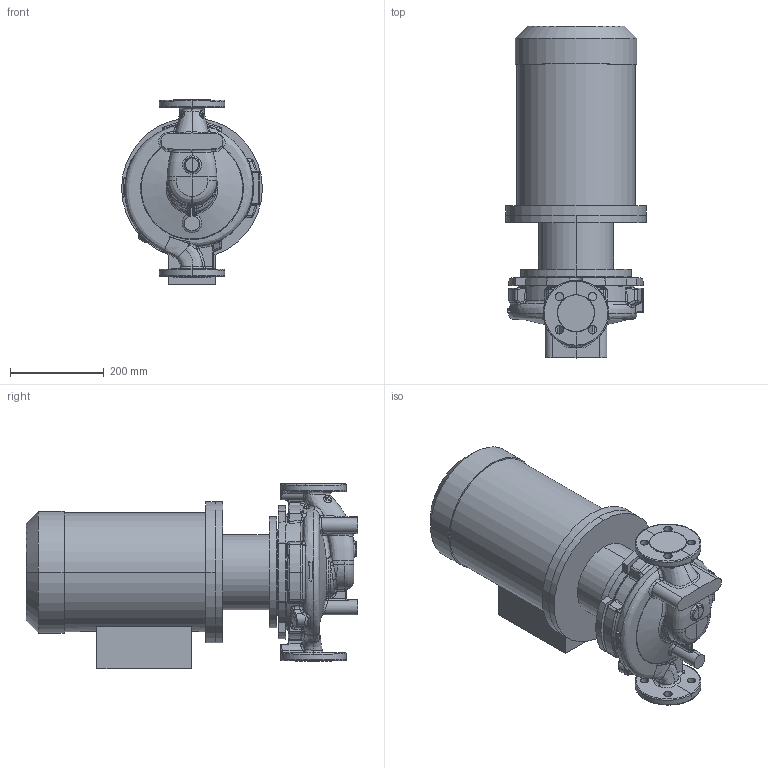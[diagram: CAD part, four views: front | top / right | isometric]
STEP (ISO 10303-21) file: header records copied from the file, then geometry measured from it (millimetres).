
FILE_DESCRIPTION (( 'STEP AP214' ), '1' );
FILE_NAME ('KRL 32-200-2-7,5.STEP', '2026-03-17T07:27:46', ( '' ), ( '' ), 'SwSTEP 2.0', 'SolidWorks 2016', '' );
FILE_SCHEMA (( 'AUTOMOTIVE_DESIGN' ));
Length unit declared in the file: millimetre
Products named in the file (1): KRL 32-200-2-7,5
Bounding box: 300 x 707.3 x 396 mm (x, y, z)
Volume: 33664810.5 mm3; surface area: 1267927 mm2
Topology: 4 solids, 4 shells, 710 faces, 1715 edges, 1010 vertices
Faces by surface type: bspline 336, cylinder 157, plane 110, cone 45, torus 35, sphere 27
Entity records: 60849 total; most frequent: CARTESIAN_POINT 39452, ORIENTED_EDGE 3380, DIRECTION 2098, EDGE_CURVE 1690, VERTEX_POINT 1010, AXIS2_PLACEMENT_3D 906, EDGE_LOOP 748, B_SPLINE_CURVE_WITH_KNOTS 728
